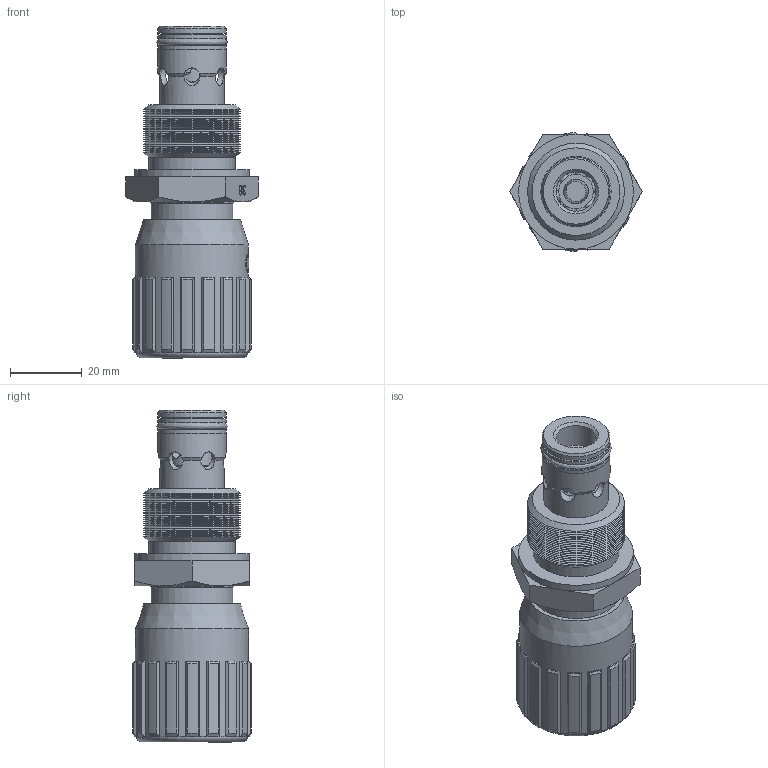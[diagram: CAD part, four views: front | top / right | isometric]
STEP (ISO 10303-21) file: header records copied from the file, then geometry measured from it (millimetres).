
FILE_DESCRIPTION (( 'STEP AP214' ), '1' );
FILE_NAME ('FT267_5-38.STEP', '2015-04-15T13:26:31', ( 'cperuzzotti' ), ( 'Hewlett-Packard Company' ), 'SwSTEP 2.0', 'SolidWorks 2014', '' );
FILE_SCHEMA (( 'AUTOMOTIVE_DESIGN' ));
Length unit declared in the file: millimetre
Products named in the file (1): FT267_5-38
Bounding box: 36.95 x 33 x 92.5 mm (x, y, z)
Surface area: 14305.3 mm2 (no closed solid volume)
Topology: 0 solids, 19 shells, 402 faces, 1417 edges, 1005 vertices
Faces by surface type: plane 184, cone 96, cylinder 80, bspline 41, torus 1
Full cylindrical faces by diameter (mm): 1.058 x1, 3 x6, 4.5 x6, 5 x1, 6.9 x1, 11 x1, 12.5 x1, 13.9 x1, 14.3 x1, 15 x1, 16 x1, 18 x1, 18.96 x2, 19 x2, 22.9 x1, 23 x1, 24 x1, 27 x19, 31.5 x1, 32 x1
Entity records: 23390 total; most frequent: CARTESIAN_POINT 7905, ORIENTED_EDGE 2093, DIRECTION 2042, EDGE_CURVE 1292, VERTEX_POINT 984, VECTOR 718, LINE 718, AXIS2_PLACEMENT_3D 662
